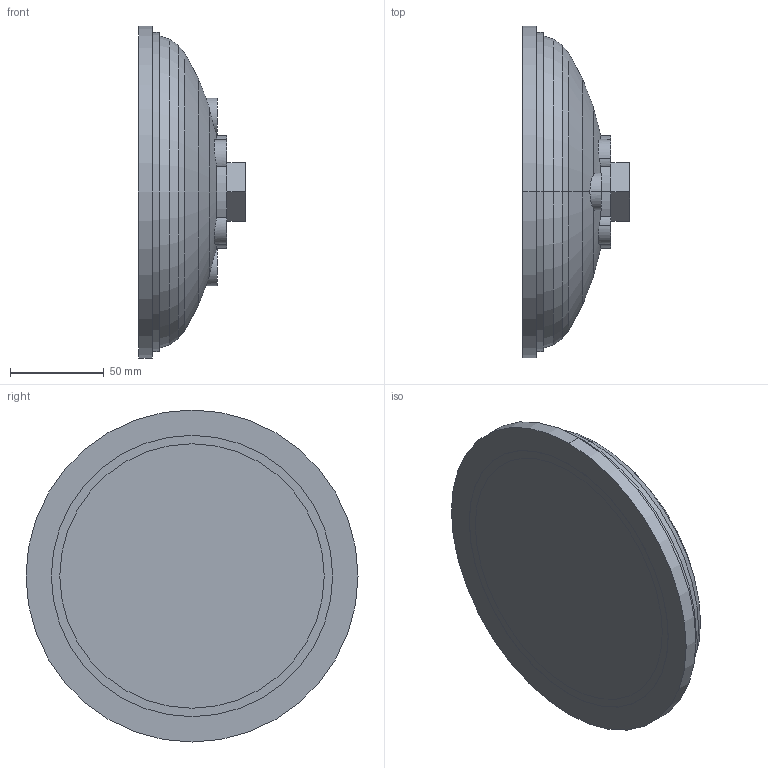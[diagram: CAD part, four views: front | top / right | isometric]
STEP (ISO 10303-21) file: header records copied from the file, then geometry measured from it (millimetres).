
FILE_DESCRIPTION(('no description'),'unknown implementation level');
FILE_NAME('8640_DN150.stp',' ',('pit-cup GmbH'),('CADClick - KiM GmbH - www.kimweb.de'),'unknown preprocess','ACIS','unknown authorization');
FILE_SCHEMA(('automotive_design'));
Length unit declared in the file: millimetre
Products named in the file (1): 1
Bounding box: 57.1 x 177 x 177 mm (x, y, z)
Volume: 299313.4 mm3; surface area: 106164.6 mm2
Topology: 1 solids, 2 shells, 74 faces, 168 edges, 103 vertices
Faces by surface type: cylinder 32, cone 28, plane 14
Entity records: 4585 total; most frequent: CARTESIAN_POINT 978, DIRECTION 352, STYLED_ITEM 344, PRESENTATION_STYLE_ASSIGNMENT 344, COLOUR_RGB 344, ORIENTED_EDGE 336, EDGE_CURVE 166, CURVE_STYLE 166
